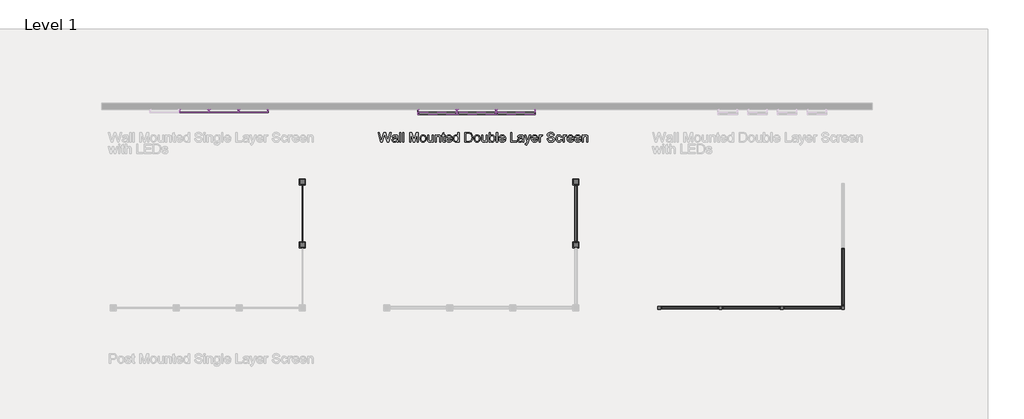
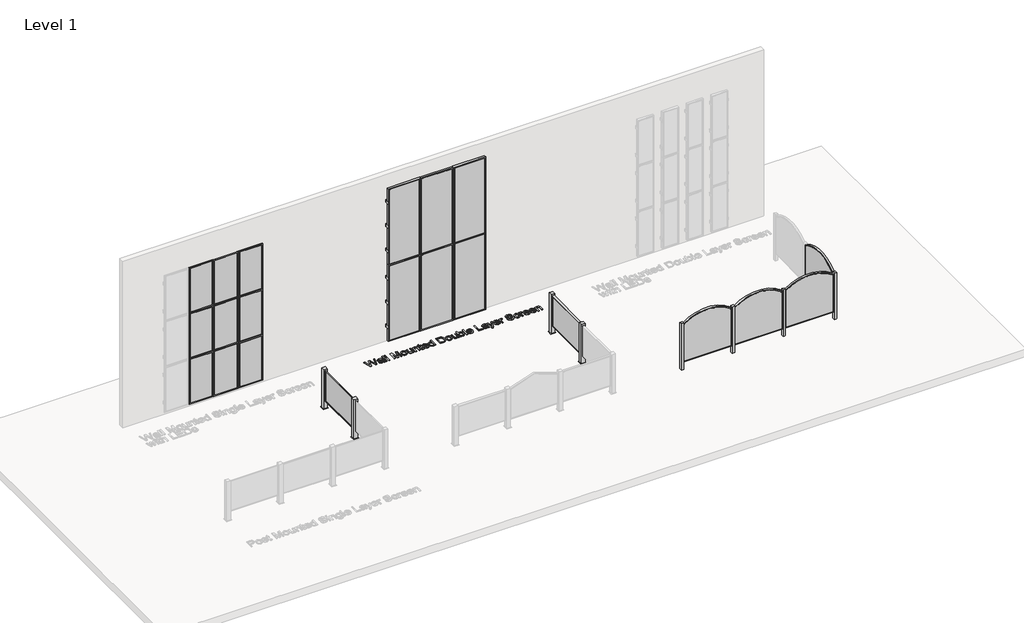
# One storey, part 3 of 4: 22 proxies.
"""IFC4 building model written with IfcOpenShell, lengths in millimetres."""

from ifc_helpers import new_model, si_unit, origin, origin_with_axes, place, context, project, spatial, polyline, outline, extrude, transform, mapped, element, save
from components import post_mounted_f91466e1, proxy_c546ff88, proxy_14816cca, wall_mount_double_layer_4x10_w_led_b86ccbe1, wall_mount_single_layer_3x6_w_led_26e74e4a

model = new_model("IFC4")

# Units and contexts
model_context = context("Model", 3, world=origin())
ifc_project = project(units=[si_unit("LENGTHUNIT", "METRE", prefix="MILLI")], contexts=[model_context])

# Site, building, storey
site = spatial("IfcSite", under=ifc_project)
building = spatial("IfcBuilding", under=site)
storey = spatial("IfcBuildingStorey", under=building, Name="Level 1", Elevation=0.0)

# Proxies
placement = place(None, origin())
element("IfcBuildingElementProxy", 1, Name="12\" Arial", ObjectType="12\" Arial", at=placement, inside=storey, context=model_context, shape_type="SweptSolid", body=[
    extrude(outline(polyline([(-6694.2804069, -5129.4015724), (-6777.3374001, -4824.8344783), (-6738.0767982, -4824.8344783), (-6689.8933321, -5025.0040626), (-6675.021892, -5086.7948964), (-6659.109451, -5032.1423538), (-6598.7314041, -4824.8344783), (-6542.1455743, -4824.8344783), (-6498.2748259, -4975.1103809), (-6479.4810434, -5030.8782814), (-6465.6320148, -5086.7948964), (-6451.2067179, -5026.7886354), (-6402.5771086, -4824.8344783), (-6363.3165066, -4824.8344783), (-6446.447857, -5129.4015724), (-6487.1212458, -5129.4015724), (-6560.1400169, -4894.4328181), (-6570.3269534, -4861.6412926), (-6581.7779623, -4901.1249662), (-6648.3276569, -5129.4015724), (-6694.2804069, -5129.4015724)])), origin_with_axes(), (0.0, 0.0, 1.0), 25.4),
    extrude(outline(polyline([(-6187.2386554, -5100.8484073), (-6205.4282856, -5116.4448301), (-6224.1570055, -5126.6503559), (-6243.8523691, -5132.2829139), (-6264.9419301, -5134.1604332), (-6296.7575174, -5129.6432333), (-6320.2265088, -5116.0916334), (-6334.698279, -5095.5132781), (-6339.5222024, -5069.9158118), (-6337.700451, -5054.1334959), (-6332.2351967, -5039.8011455), (-6323.8049491, -5027.5322074), (-6313.0882176, -5017.9401285), (-6286.4311611, -5005.4481188), (-6253.4909212, -4999.7226143), (-6214.5649266, -4993.6996811), (-6187.461727, -4986.635747), (-6187.2386554, -4978.1590261), (-6189.8597467, -4961.1684058), (-6197.7230207, -4950.0520043), (-6215.3084986, -4941.798355), (-6239.8091963, -4939.0471386), (-6262.4881425, -4940.8781846), (-6278.3262262, -4946.3713228), (-6289.1266096, -4956.5303754), (-6296.6924548, -4972.3591645), (-6334.7633416, -4967.6003036), (-6328.1548454, -4946.7802874), (-6318.2932216, -4930.4217033), (-6304.2583, -4917.9111043), (-6285.1299101, -4908.6350435), (-6261.7352758, -4902.8909497), (-6234.901621, -4900.9762518), (-6209.1647349, -4902.6678781), (-6188.762978, -4907.7427571), (-6173.3803321, -4915.3736648), (-6162.7007791, -4924.7333774), (-6155.6182558, -4936.3052168), (-6151.0266986, -4950.5725047), (-6149.1677686, -4983.8845306), (-6149.1677686, -5031.2500674), (-6147.2344814, -5097.3907975), (-6139.6500469, -5129.4015724), (-6177.7209337, -5129.4015724), (-6183.8182241, -5116.1659906), (-6187.2386554, -5100.8484073)]), holes=[polyline([(-6187.2386554, -5024.7066338), (-6248.6577032, -5036.3807143), (-6281.4120501, -5042.5523619), (-6296.2463116, -5052.590584), (-6301.4513157, -5067.2389526), (-6298.6164474, -5078.5598364), (-6290.1118425, -5087.8358972), (-6276.1233942, -5094.0261341), (-6256.8369952, -5096.0895464), (-6236.388765, -5093.8123572), (-6218.3199653, -5086.9807894), (-6203.6715967, -5076.9146833), (-6193.4846602, -5064.9338793), (-6188.9674603, -5052.590584), (-6187.461727, -5035.4884279), (-6187.2386554, -5024.7066338)])]), origin_with_axes(), (0.0, 0.0, 1.0), 25.4),
    extrude(outline(polyline([(-6096.8202993, -5129.4015724), (-6096.8202993, -4824.8344783), (-6058.7494126, -4824.8344783), (-6058.7494126, -5129.4015724), (-6096.8202993, -5129.4015724)])), origin_with_axes(), (0.0, 0.0, 1.0), 25.4),
    extrude(outline(polyline([(-6001.6430824, -5129.4015724), (-6001.6430824, -4824.8344783), (-5963.5721957, -4824.8344783), (-5963.5721957, -5129.4015724), (-6001.6430824, -5129.4015724)])), origin_with_axes(), (0.0, 0.0, 1.0), 25.4),
    extrude(outline(polyline([(-5782.7354836, -5129.4015724), (-5782.7354836, -4824.8344783), (-5717.2267897, -4824.8344783), (-5654.9154556, -5039.5037167), (-5642.3490886, -5084.3411087), (-5628.7417209, -5035.7858567), (-5567.4713875, -4824.8344783), (-5501.9626937, -4824.8344783), (-5501.9626937, -5129.4015724), (-5540.0335805, -5129.4015724), (-5540.0335805, -4862.905365), (-5616.54714, -5129.4015724), (-5668.1510373, -5129.4015724), (-5744.6645968, -4862.905365), (-5744.6645968, -5129.4015724), (-5782.7354836, -5129.4015724)])), origin_with_axes(), (0.0, 0.0, 1.0), 25.4),
    extrude(outline(polyline([(-5449.6152244, -5017.5683425), (-5447.5564594, -4988.6015655), (-5441.3801645, -4963.6407827), (-5431.0863395, -4942.6859941), (-5416.6749845, -4925.7371996), (-5402.1660357, -4914.904285), (-5386.1513536, -4907.1664888), (-5368.6309382, -4902.523811), (-5349.6047895, -4900.9762518), (-5328.601204, -4902.8607421), (-5309.6099102, -4908.514213), (-5292.6309081, -4917.9366646), (-5277.6641978, -4931.1280967), (-5265.4487039, -4947.6423662), (-5256.7233512, -4967.03333), (-5251.4881395, -4989.3009879), (-5249.7430689, -5014.4453401), (-5252.8288928, -5052.9066021), (-5262.0863643, -5082.1847499), (-5277.2459386, -5104.1108295), (-5298.0380708, -5120.5158869), (-5322.7339561, -5130.7492966), (-5349.6047895, -5134.1604332), (-5370.9150985, -5132.2829139), (-5390.0829906, -5126.6503559), (-5407.1084659, -5117.2627593), (-5421.9915244, -5104.1201241), (-5434.0768931, -5087.4455219), (-5442.7092994, -5067.4620242), (-5447.8887432, -5044.1696311), (-5449.6152244, -5017.5683425)]), holes=[polyline([(-5411.5443377, -5017.4939853), (-5407.1386735, -5051.9492532), (-5393.9216811, -5076.4964241), (-5374.0311299, -5091.1912658), (-5349.6047895, -5096.0895464), (-5325.2899849, -5091.1633819), (-5305.4366123, -5076.3848883), (-5292.2196198, -5051.5124046), (-5287.8139557, -5016.3042701), (-5292.2475038, -4982.8528244), (-5305.5481481, -4958.6402609), (-5325.4294046, -4943.9454192), (-5349.6047895, -4939.0471386), (-5374.0311299, -4943.9268299), (-5393.9216811, -4958.5659037), (-5407.1386735, -4983.0573067), (-5411.5443377, -5017.4939853)])]), origin_with_axes(), (0.0, 0.0, 1.0), 25.4),
    extrude(outline(polyline([(-5064.147496, -5129.4015724), (-5064.147496, -5090.9588996), (-5077.9221674, -5109.8595705), (-5093.9647335, -5123.3600498), (-5112.2751942, -5131.4603374), (-5132.8535494, -5134.1604332), (-5151.3963764, -5132.2643246), (-5168.6565416, -5126.5759987), (-5183.1376064, -5118.0249206), (-5193.3431322, -5107.5405553), (-5200.2118786, -5094.8068847), (-5204.6826053, -5079.5078907), (-5206.9133213, -5044.1138632), (-5206.9133213, -4905.7351126), (-5168.8424346, -4905.7351126), (-5168.8424346, -5026.1937778), (-5166.5373614, -5065.0082365), (-5160.9884553, -5077.9556841), (-5151.4800282, -5087.7987186), (-5138.6441164, -5094.0168395), (-5123.1127562, -5096.0895464), (-5106.6891094, -5093.9703662), (-5091.3250529, -5087.6128256), (-5078.6564448, -5077.6024874), (-5070.3191437, -5064.5249147), (-5065.6904079, -5046.614124), (-5064.147496, -5022.1041317), (-5064.147496, -4905.7351126), (-5026.0766092, -4905.7351126), (-5026.0766092, -5129.4015724), (-5064.147496, -5129.4015724)])), origin_with_axes(), (0.0, 0.0, 1.0), 25.4),
    extrude(outline(polyline([(-4973.7291399, -5129.4015724), (-4973.7291399, -4905.7351126), (-4935.6582532, -4905.7351126), (-4935.6582532, -4936.9651369), (-4922.4319661, -4921.2199997), (-4906.5474091, -4909.9734731), (-4888.0045822, -4903.2255571), (-4866.8034853, -4900.9762518), (-4848.0375868, -4902.7887086), (-4830.8517788, -4908.2260789), (-4816.5194284, -4916.6098533), (-4806.3139026, -4927.2615223), (-4794.9000723, -4955.2570083), (-4792.8924278, -4992.0638227), (-4792.8924278, -5129.4015724), (-4830.9633146, -5129.4015724), (-4830.9633146, -4997.1944695), (-4835.3503894, -4963.5106576), (-4841.419796, -4953.4817301), (-4850.8538658, -4945.702108), (-4862.9462056, -4940.7108809), (-4876.9904218, -4939.0471386), (-4899.2882874, -4942.7835879), (-4918.2958468, -4953.9929359), (-4925.8918996, -4963.1435189), (-4931.3176516, -4975.6494706), (-4935.6582532, -5010.72748), (-4935.6582532, -5129.4015724), (-4973.7291399, -5129.4015724)])), origin_with_axes(), (0.0, 0.0, 1.0), 25.4),
    extrude(outline(polyline([(-4659.6443242, -5097.6510477), (-4654.8854633, -5130.5169304), (-4683.3642712, -5134.1604332), (-4701.6375533, -5132.5803427), (-4715.2635103, -5127.8400711), (-4724.8927678, -5120.5344762), (-4731.1759513, -5111.2584154), (-4734.6335611, -5095.3273851), (-4735.7860977, -5068.0568818), (-4735.7860977, -4943.8059994), (-4764.3392628, -4943.8059994), (-4764.3392628, -4905.7351126), (-4735.7860977, -4905.7351126), (-4735.7860977, -4851.3799989), (-4697.7152109, -4828.9984815), (-4697.7152109, -4905.7351126), (-4659.6443242, -4905.7351126), (-4659.6443242, -4943.8059994), (-4697.7152109, -4943.8059994), (-4697.7152109, -5066.9415238), (-4695.7075665, -5086.5718248), (-4689.2013115, -5093.524223), (-4676.2259799, -5096.0895464), (-4659.6443242, -5097.6510477)])), origin_with_axes(), (0.0, 0.0, 1.0), 25.4),
    extrude(outline(polyline([(-4464.9771728, -5062.7775205), (-4427.649858, -5067.5363814), (-4441.0992167, -5095.6619925), (-4462.5605637, -5116.686491), (-4491.5505774, -5129.7919477), (-4527.5859357, -5134.1604332), (-4551.2082889, -5132.2759429), (-4572.2560241, -5126.622472), (-4590.7291411, -5117.2000205), (-4606.6276401, -5104.0085883), (-4619.4124313, -5087.4153142), (-4628.544425, -5067.7873369), (-4634.0236212, -5045.1246563), (-4635.85002, -5019.4272725), (-4634.0050319, -4992.8585152), (-4628.4700678, -4969.4406443), (-4619.2451276, -4949.1736598), (-4606.3302113, -4932.0575617), (-4590.4735382, -4918.4594886), (-4572.4233278, -4908.7465793), (-4552.1795799, -4902.9188337), (-4529.7422946, -4900.9762518), (-4508.0276683, -4902.9141863), (-4488.3903963, -4908.72799), (-4470.8304786, -4918.4176627), (-4455.3479153, -4931.9832045), (-4442.7095148, -4949.062124), (-4433.6820859, -4969.2919299), (-4428.2656286, -4992.6726222), (-4426.4601428, -5019.2042009), (-4426.6832144, -5029.4654946), (-4597.7791332, -5029.4654946), (-4591.1892263, -5057.9628918), (-4575.8809376, -5078.9130331), (-4553.7875543, -5091.7954181), (-4526.8423637, -5096.0895464), (-4506.5800265, -5094.1004913), (-4489.515049, -5088.133326), (-4475.6474311, -5077.8162644), (-4464.9771728, -5062.7775205)]), holes=[polyline([(-4597.7791332, -4991.3946079), (-4464.5310296, -4991.3946079), (-4469.6802657, -4971.2809851), (-4479.7742557, -4956.8928667), (-4501.9698801, -4943.5085706), (-4529.891009, -4939.0471386), (-4555.5535379, -4942.6069895), (-4576.773224, -4953.2865425), (-4591.5238337, -4969.9332608), (-4597.7791332, -4991.3946079)])]), origin_with_axes(), (0.0, 0.0, 1.0), 25.4),
    extrude(outline(polyline([(-4250.3822915, -5129.4015724), (-4250.3822915, -5093.4870444), (-4261.7728852, -5111.281652), (-4275.5707933, -5123.992086), (-4291.7760157, -5131.6183464), (-4310.3885525, -5134.1604332), (-4335.0007859, -5130.4797518), (-4357.5310177, -5119.4377075), (-4376.6036397, -5101.8057562), (-4390.8430437, -5078.3553541), (-4399.7101398, -5050.0345553), (-4402.6658386, -5017.7914141), (-4399.9425061, -4985.9479429), (-4391.7725087, -4957.1902955), (-4378.1651409, -4933.1543304), (-4359.1296976, -4915.4759059), (-4336.1068493, -4904.6011653), (-4310.5372669, -4900.9762518), (-4291.9107881, -4903.5694592), (-4275.4406682, -4911.3490813), (-4261.4801037, -4923.2741174), (-4250.3822915, -4938.3035666), (-4250.3822915, -4824.8344783), (-4212.3114048, -4824.8344783), (-4212.3114048, -5129.4015724), (-4250.3822915, -5129.4015724)]), holes=[polyline([(-4364.5949518, -5017.6426997), (-4360.3008235, -5052.0793783), (-4347.4184384, -5076.5707813), (-4328.6990132, -5091.2098551), (-4306.8937641, -5096.0895464), (-4285.0978096, -5091.4329267), (-4266.8524115, -5077.4630677), (-4254.4998215, -5053.919719), (-4250.3822915, -5020.5426305), (-4254.5741787, -4984.0518343), (-4267.1498403, -4958.7517967), (-4285.8599709, -4943.9733031), (-4308.4552653, -4939.0471386), (-4330.483586, -4943.7781155), (-4348.5337965, -4957.9710461), (-4360.579663, -4982.3509133), (-4364.5949518, -5017.6426997)])]), origin_with_axes(), (0.0, 0.0, 1.0), 25.4),
    extrude(outline(polyline([(-4031.4746927, -5129.4015724), (-4031.4746927, -4824.8344783), (-3926.4079681, -4824.8344783), (-3872.0528544, -4829.2215531), (-3847.7752283, -4837.6796847), (-3827.2898195, -4851.0082129), (-3806.2281425, -4874.2076596), (-3791.2265772, -4903.0582534), (-3782.2479452, -4937.0023155), (-3779.2550679, -4975.4821669), (-3781.2813016, -5008.1714513), (-3787.3600028, -5036.9383933), (-3796.6174743, -5061.4297963), (-3808.180019, -5081.2924635), (-3821.4899579, -5096.9725382), (-3835.989612, -5108.9161636), (-3852.6363303, -5117.7739651), (-3872.3874618, -5124.1965683), (-3921.3516784, -5129.4015724), (-4031.4746927, -5129.4015724)]), holes=[polyline([(-3993.4038059, -5091.3306856), (-3926.0361821, -5091.3306856), (-3898.1708211, -5089.9550774), (-3877.0347868, -5085.8282527), (-3861.0851673, -5079.1918726), (-3848.7790506, -5070.2875978), (-3835.5527635, -5053.8081832), (-3825.6167825, -5032.4769612), (-3819.3986616, -5006.2009854), (-3817.3259547, -4974.8873093), (-3821.3877167, -4933.3959913), (-3833.573003, -4902.7608246), (-3851.5767402, -4881.7177368), (-3873.0938552, -4869.0026555), (-3894.9920508, -4864.4296877), (-3927.0771829, -4862.905365), (-3993.4038059, -4862.905365), (-3993.4038059, -5091.3306856)])]), origin_with_axes(), (0.0, 0.0, 1.0), 25.4),
    extrude(outline(polyline([(-3741.1841811, -5017.5683425), (-3739.1254161, -4988.6015655), (-3732.9491212, -4963.6407827), (-3722.6552962, -4942.6859941), (-3708.2439412, -4925.7371996), (-3693.7349924, -4914.904285), (-3677.7203103, -4907.1664888), (-3660.1998949, -4902.523811), (-3641.1737462, -4900.9762518), (-3620.1701607, -4902.8607421), (-3601.1788669, -4908.514213), (-3584.1998648, -4917.9366646), (-3569.2331545, -4931.1280967), (-3557.0176606, -4947.6423662), (-3548.2923079, -4967.03333), (-3543.0570962, -4989.3009879), (-3541.3120257, -5014.4453401), (-3544.3978495, -5052.9066021), (-3553.655321, -5082.1847499), (-3568.8148953, -5104.1108295), (-3589.6070275, -5120.5158869), (-3614.3029128, -5130.7492966), (-3641.1737462, -5134.1604332), (-3662.4840552, -5132.2829139), (-3681.6519473, -5126.6503559), (-3698.6774226, -5117.2627593), (-3713.5604811, -5104.1201241), (-3725.6458499, -5087.4455219), (-3734.2782561, -5067.4620242), (-3739.4576999, -5044.1696311), (-3741.1841811, -5017.5683425)]), holes=[polyline([(-3703.1132944, -5017.4939853), (-3698.7076302, -5051.9492532), (-3685.4906378, -5076.4964241), (-3665.6000866, -5091.1912658), (-3641.1737462, -5096.0895464), (-3616.8589416, -5091.1633819), (-3597.005569, -5076.3848883), (-3583.7885766, -5051.5124046), (-3579.3829124, -5016.3042701), (-3583.8164605, -4982.8528244), (-3597.1171048, -4958.6402609), (-3616.9983613, -4943.9454192), (-3641.1737462, -4939.0471386), (-3665.6000866, -4943.9268299), (-3685.4906378, -4958.5659037), (-3698.7076302, -4983.0573067), (-3703.1132944, -5017.4939853)])]), origin_with_axes(), (0.0, 0.0, 1.0), 25.4),
    extrude(outline(polyline([(-3355.7164527, -5129.4015724), (-3355.7164527, -5090.9588996), (-3369.4911241, -5109.8595705), (-3385.5336902, -5123.3600498), (-3403.8441509, -5131.4603374), (-3424.4225062, -5134.1604332), (-3442.9653331, -5132.2643246), (-3460.2254983, -5126.5759987), (-3474.7065631, -5118.0249206), (-3484.9120889, -5107.5405553), (-3491.7808353, -5094.8068847), (-3496.251562, -5079.5078907), (-3498.4822781, -5044.1138632), (-3498.4822781, -4905.7351126), (-3460.4113913, -4905.7351126), (-3460.4113913, -5026.1937778), (-3458.1063181, -5065.0082365), (-3452.557412, -5077.9556841), (-3443.0489849, -5087.7987186), (-3430.2130732, -5094.0168395), (-3414.6817129, -5096.0895464), (-3398.2580662, -5093.9703662), (-3382.8940096, -5087.6128256), (-3370.2254015, -5077.6024874), (-3361.8881004, -5064.5249147), (-3357.2593646, -5046.614124), (-3355.7164527, -5022.1041317), (-3355.7164527, -4905.7351126), (-3317.6455659, -4905.7351126), (-3317.6455659, -5129.4015724), (-3355.7164527, -5129.4015724)])), origin_with_axes(), (0.0, 0.0, 1.0), 25.4),
    extrude(outline(polyline([(-3227.2272099, -5129.4015724), (-3265.2980967, -5129.4015724), (-3265.2980967, -4824.8344783), (-3227.2272099, -4824.8344783), (-3227.2272099, -4937.7830662), (-3214.7073162, -4921.6800849), (-3200.5701534, -4910.1779554), (-3184.8157215, -4903.2766777), (-3167.4440205, -4900.9762518), (-3147.8323089, -4903.0489588), (-3129.2987766, -4909.2670797), (-3112.9030138, -4919.2402392), (-3099.7046107, -4932.5780621), (-3089.3596651, -4949.1504232), (-3081.5242751, -4968.8271974), (-3076.5888159, -4990.7904556), (-3074.9436629, -5014.2222685), (-3076.6469075, -5041.2604056), (-3081.7566414, -5065.0454151), (-3090.2728645, -5085.5772972), (-3102.1955769, -5102.8560517), (-3116.5070144, -5116.5517186), (-3132.1894128, -5126.3343378), (-3149.242772, -5132.2039094), (-3167.6670921, -5134.1604332), (-3185.6104141, -5131.6369357), (-3201.5182078, -5124.0664432), (-3215.390473, -5111.4489557), (-3227.2272099, -5093.7844732), (-3227.2272099, -5129.4015724)]), holes=[polyline([(-3227.2272099, -5016.0068413), (-3224.6247079, -5047.757366), (-3216.8172018, -5069.246597), (-3207.5922616, -5080.9903874), (-3196.8708827, -5089.3788091), (-3184.6530652, -5094.4118621), (-3170.938809, -5096.0895464), (-3148.9662562, -5091.1447926), (-3130.191063, -5076.3105311), (-3117.308678, -5051.6797083), (-3113.0145496, -5017.3452709), (-3117.1320796, -4982.5089224), (-3129.4846696, -4958.1569391), (-3147.6742998, -4943.8245887), (-3169.3029506, -4939.0471386), (-3191.2755034, -4943.9918924), (-3210.0506965, -4958.8261539), (-3222.9330816, -4983.0108335), (-3227.2272099, -5016.0068413)])]), origin_with_axes(), (0.0, 0.0, 1.0), 25.4),
    extrude(outline(polyline([(-3032.1139153, -5129.4015724), (-3032.1139153, -4824.8344783), (-2994.0430285, -4824.8344783), (-2994.0430285, -5129.4015724), (-3032.1139153, -5129.4015724)])), origin_with_axes(), (0.0, 0.0, 1.0), 25.4),
    extrude(outline(polyline([(-2780.3404337, -5062.7775205), (-2743.0131189, -5067.5363814), (-2756.4624776, -5095.6619925), (-2777.9238247, -5116.686491), (-2806.9138383, -5129.7919477), (-2842.9491967, -5134.1604332), (-2866.5715499, -5132.2759429), (-2887.619285, -5126.622472), (-2906.092402, -5117.2000205), (-2921.990901, -5104.0085883), (-2934.7756922, -5087.4153142), (-2943.9076859, -5067.7873369), (-2949.3868822, -5045.1246563), (-2951.2132809, -5019.4272725), (-2949.3682929, -4992.8585152), (-2943.8333287, -4969.4406443), (-2934.6083885, -4949.1736598), (-2921.6934722, -4932.0575617), (-2905.8367992, -4918.4594886), (-2887.7865887, -4908.7465793), (-2867.5428408, -4902.9188337), (-2845.1055555, -4900.9762518), (-2823.3909292, -4902.9141863), (-2803.7536573, -4908.72799), (-2786.1937396, -4918.4176627), (-2770.7111762, -4931.9832045), (-2758.0727757, -4949.062124), (-2749.0453468, -4969.2919299), (-2743.6288895, -4992.6726222), (-2741.8234037, -5019.2042009), (-2742.0464753, -5029.4654946), (-2913.1423941, -5029.4654946), (-2906.5524872, -5057.9628918), (-2891.2441985, -5078.9130331), (-2869.1508153, -5091.7954181), (-2842.2056247, -5096.0895464), (-2821.9432875, -5094.1004913), (-2804.8783099, -5088.133326), (-2791.010692, -5077.8162644), (-2780.3404337, -5062.7775205)]), holes=[polyline([(-2913.1423941, -4991.3946079), (-2779.8942905, -4991.3946079), (-2785.0435266, -4971.2809851), (-2795.1375166, -4956.8928667), (-2817.333141, -4943.5085706), (-2845.2542699, -4939.0471386), (-2870.9167988, -4942.6069895), (-2892.1364849, -4953.2865425), (-2906.8870946, -4969.9332608), (-2913.1423941, -4991.3946079)])]), origin_with_axes(), (0.0, 0.0, 1.0), 25.4),
    extrude(outline(polyline([(-2580.022135, -5129.4015724), (-2580.022135, -4824.8344783), (-2541.9512482, -4824.8344783), (-2541.9512482, -5091.3306856), (-2389.6677012, -5091.3306856), (-2389.6677012, -5129.4015724), (-2580.022135, -5129.4015724)])), origin_with_axes(), (0.0, 0.0, 1.0), 25.4),
    extrude(outline(polyline([(-2208.8309891, -5100.8484073), (-2227.0206193, -5116.4448301), (-2245.7493393, -5126.6503559), (-2265.4447028, -5132.2829139), (-2286.5342638, -5134.1604332), (-2318.3498511, -5129.6432333), (-2341.8188426, -5116.0916334), (-2356.2906127, -5095.5132781), (-2361.1145361, -5069.9158118), (-2359.2927847, -5054.1334959), (-2353.8275305, -5039.8011455), (-2345.3972828, -5027.5322074), (-2334.6805513, -5017.9401285), (-2308.0234948, -5005.4481188), (-2275.0832549, -4999.7226143), (-2236.1572604, -4993.6996811), (-2209.0540607, -4986.635747), (-2208.8309891, -4978.1590261), (-2211.4520804, -4961.1684058), (-2219.3153544, -4950.0520043), (-2236.9008324, -4941.798355), (-2261.40153, -4939.0471386), (-2284.0804762, -4940.8781846), (-2299.91856, -4946.3713228), (-2310.7189434, -4956.5303754), (-2318.2847885, -4972.3591645), (-2356.3556753, -4967.6003036), (-2349.7471791, -4946.7802874), (-2339.8855553, -4930.4217033), (-2325.8506337, -4917.9111043), (-2306.7222438, -4908.6350435), (-2283.3276096, -4902.8909497), (-2256.4939548, -4900.9762518), (-2230.7570687, -4902.6678781), (-2210.3553117, -4907.7427571), (-2194.9726658, -4915.3736648), (-2184.2931129, -4924.7333774), (-2177.2105895, -4936.3052168), (-2172.6190324, -4950.5725047), (-2170.7601023, -4983.8845306), (-2170.7601023, -5031.2500674), (-2168.8268151, -5097.3907975), (-2161.2423807, -5129.4015724), (-2199.3132674, -5129.4015724), (-2205.4105579, -5116.1659906), (-2208.8309891, -5100.8484073)]), holes=[polyline([(-2208.8309891, -5024.7066338), (-2270.2500369, -5036.3807143), (-2303.0043838, -5042.5523619), (-2317.8386453, -5052.590584), (-2323.0436494, -5067.2389526), (-2320.2087811, -5078.5598364), (-2311.7041763, -5087.8358972), (-2297.7157279, -5094.0261341), (-2278.429329, -5096.0895464), (-2257.9810988, -5093.8123572), (-2239.912299, -5086.9807894), (-2225.2639305, -5076.9146833), (-2215.076994, -5064.9338793), (-2210.559794, -5052.590584), (-2209.0540607, -5035.4884279), (-2208.8309891, -5024.7066338)])]), origin_with_axes(), (0.0, 0.0, 1.0), 25.4),
    extrude(outline(polyline([(-2118.4126331, -5215.0610676), (-2123.1714939, -5178.4029676), (-2103.8386217, -5181.7490416), (-2085.7698219, -5177.5478598), (-2074.690599, -5165.8366007), (-2064.2805909, -5137.803936), (-2061.3063029, -5128.5836431), (-2142.2069373, -4905.7351126), (-2102.0540489, -4905.7351126), (-2059.1499441, -5029.9116378), (-2044.2041468, -5079.5822479), (-2029.2583494, -5035.7114995), (-1985.1645294, -4905.7351126), (-1945.3090698, -4905.7351126), (-2023.161059, -5134.7552908), (-2043.3862175, -5184.4259009), (-2053.7404577, -5200.2825739), (-2065.4703062, -5211.2688503), (-2079.0962632, -5217.6821589), (-2095.1388292, -5219.8199284), (-2118.4126331, -5215.0610676)])), origin_with_axes(), (0.0, 0.0, 1.0), 25.4),
    extrude(outline(polyline([(-1757.1853521, -5062.7775205), (-1719.8580373, -5067.5363814), (-1733.307396, -5095.6619925), (-1754.768743, -5116.686491), (-1783.7587567, -5129.7919477), (-1819.794115, -5134.1604332), (-1843.4164682, -5132.2759429), (-1864.4642034, -5126.622472), (-1882.9373204, -5117.2000205), (-1898.8358194, -5104.0085883), (-1911.6206106, -5087.4153142), (-1920.7526043, -5067.7873369), (-1926.2318005, -5045.1246563), (-1928.0581993, -5019.4272725), (-1926.2132112, -4992.8585152), (-1920.6782471, -4969.4406443), (-1911.4533069, -4949.1736598), (-1898.5383906, -4932.0575617), (-1882.6817175, -4918.4594886), (-1864.6315071, -4908.7465793), (-1844.3877592, -4902.9188337), (-1821.9504739, -4900.9762518), (-1800.2358476, -4902.9141863), (-1780.5985756, -4908.72799), (-1763.0386579, -4918.4176627), (-1747.5560946, -4931.9832045), (-1734.9176941, -4949.062124), (-1725.8902652, -4969.2919299), (-1720.4738079, -4992.6726222), (-1718.6683221, -5019.2042009), (-1718.8913937, -5029.4654946), (-1889.9873125, -5029.4654946), (-1883.3974056, -5057.9628918), (-1868.0891169, -5078.9130331), (-1845.9957336, -5091.7954181), (-1819.050543, -5096.0895464), (-1798.7882058, -5094.1004913), (-1781.7232283, -5088.133326), (-1767.8556104, -5077.8162644), (-1757.1853521, -5062.7775205)]), holes=[polyline([(-1889.9873125, -4991.3946079), (-1756.7392088, -4991.3946079), (-1761.888445, -4971.2809851), (-1771.982435, -4956.8928667), (-1794.1780594, -4943.5085706), (-1822.0991883, -4939.0471386), (-1847.7617172, -4942.6069895), (-1868.9814033, -4953.2865425), (-1883.732013, -4969.9332608), (-1889.9873125, -4991.3946079)])]), origin_with_axes(), (0.0, 0.0, 1.0), 25.4),
    extrude(outline(polyline([(-1680.5974353, -5129.4015724), (-1680.5974353, -4905.7351126), (-1647.2854094, -4905.7351126), (-1647.2854094, -4938.824067), (-1634.9792927, -4919.6399092), (-1623.6398196, -4908.3376147), (-1612.2631679, -4902.8165925), (-1599.8455154, -4900.9762518), (-1580.8844292, -4903.9133612), (-1561.6259142, -4912.7246895), (-1574.3409955, -4946.8546446), (-1587.7252917, -4940.9990151), (-1601.1095878, -4939.0471386), (-1612.4769448, -4940.9246579), (-1622.6359974, -4946.5572158), (-1630.8431734, -4955.5172585), (-1636.3549009, -4967.377232), (-1640.9836367, -4988.6433914), (-1642.5265486, -5011.842838), (-1642.5265486, -5129.4015724), (-1680.5974353, -5129.4015724)])), origin_with_axes(), (0.0, 0.0, 1.0), 25.4),
    extrude(outline(polyline([(-1428.3778106, -5024.7066338), (-1390.3069238, -5024.7066338), (-1385.9384383, -5045.8333734), (-1378.0379857, -5062.8146991), (-1365.7132797, -5076.2919418), (-1348.0720338, -5086.9064322), (-1326.5084456, -5093.7937679), (-1302.4167126, -5096.0895464), (-1281.2063211, -5094.3514469), (-1262.6356102, -5089.1371482), (-1247.5875717, -5080.8834989), (-1236.9451974, -5070.0273476), (-1230.6155406, -5057.5632218), (-1228.5056551, -5044.4856492), (-1230.0857456, -5031.7426839), (-1234.8260171, -5020.7285235), (-1244.4552746, -5011.3316323), (-1260.702323, -5003.4404744), (-1316.1356161, -4988.9036416), (-1352.5241712, -4979.2836788), (-1375.8072697, -4970.1284485), (-1394.7590612, -4957.3204206), (-1408.1898306, -4941.798355), (-1416.1925243, -4923.8968589), (-1418.8600889, -4903.9505398), (-1415.5604881, -4881.6526743), (-1405.6616857, -4860.860542), (-1389.423932, -4843.2378855), (-1367.1074772, -4830.4484469), (-1340.3202956, -4822.6688248), (-1310.6703618, -4820.0756174), (-1278.5480511, -4822.7896553), (-1250.4410293, -4830.9317687), (-1227.3531185, -4844.3346542), (-1210.2881409, -4862.8310078), (-1199.4877575, -4885.2682932), (-1195.1936292, -4910.4939735), (-1233.2645159, -4910.4939735), (-1240.2540928, -4887.7778487), (-1254.8281041, -4871.3820859), (-1277.5999968, -4861.4553996), (-1309.1832178, -4858.1465042), (-1341.5100108, -4861.418221), (-1363.6870459, -4871.2333715), (-1376.5136631, -4885.6772578), (-1380.7892021, -4902.8351818), (-1377.7591462, -4917.4649611), (-1368.6689784, -4929.2319881), (-1347.1797474, -4939.753532), (-1306.5063586, -4950.4981475), (-1264.5317188, -4960.7036733), (-1239.1387348, -4969.6079481), (-1217.4357268, -4983.4197981), (-1202.2947418, -5000.4661863), (-1193.3997617, -5020.5612198), (-1190.4347683, -5043.5190055), (-1193.8459049, -5066.987997), (-1204.0793146, -5089.062791), (-1220.7167383, -5108.0610558), (-1243.3399166, -5122.3004597), (-1270.5453574, -5131.1954398), (-1300.9295686, -5134.1604332), (-1338.2289994, -5130.9630736), (-1368.9292286, -5121.3709947), (-1393.383453, -5105.3470179), (-1411.9448692, -5082.8539647), (-1423.8606106, -5055.4533363), (-1428.3778106, -5024.7066338)])), origin_with_axes(), (0.0, 0.0, 1.0), 25.4),
    extrude(outline(polyline([(-995.3214737, -5048.500938), (-957.2505869, -5053.2597988), (-967.8650773, -5087.1202091), (-987.8113964, -5112.7083808), (-1015.2120249, -5128.7974201), (-1048.1894434, -5134.1604332), (-1069.5415783, -5132.2898849), (-1088.6862338, -5126.6782399), (-1105.6234099, -5117.3254982), (-1120.3531067, -5104.2316599), (-1132.2758191, -5087.6430332), (-1140.7920422, -5067.8059262), (-1145.9017761, -5044.7203391), (-1147.6050207, -5018.3862717), (-1144.6957952, -4984.5072721), (-1135.9681188, -4955.1454725), (-1121.2825717, -4931.4348201), (-1100.4997341, -4914.5092623), (-1075.6365451, -4904.3595044), (-1048.7099438, -4900.9762518), (-1016.5411598, -4905.6235768), (-990.822863, -4919.565552), (-972.3729826, -4942.0586052), (-962.0094478, -4972.3591645), (-1000.0803345, -4977.1180253), (-1006.9862595, -4960.5084856), (-1017.7401697, -4948.6020389), (-1031.7472074, -4941.4358636), (-1048.412515, -4939.0471386), (-1073.0154538, -4943.7502315), (-1092.5435136, -4957.8595103), (-1105.2864789, -4982.1371364), (-1109.534134, -5017.3452709), (-1105.3794254, -5053.0274326), (-1092.9152996, -5077.3887105), (-1073.7404365, -5091.4143374), (-1049.4535158, -5096.0895464), (-1029.739563, -5093.1710263), (-1013.5761665, -5084.4154659), (-1001.8184341, -5069.5997937), (-995.3214737, -5048.500938)])), origin_with_axes(), (0.0, 0.0, 1.0), 25.4),
    extrude(outline(polyline([(-923.938561, -5129.4015724), (-923.938561, -4905.7351126), (-890.6265351, -4905.7351126), (-890.6265351, -4938.824067), (-878.3204184, -4919.6399092), (-866.9809453, -4908.3376147), (-855.6042936, -4902.8165925), (-843.186641, -4900.9762518), (-824.2255549, -4903.9133612), (-804.9670399, -4912.7246895), (-817.6821212, -4946.8546446), (-831.0664173, -4940.9990151), (-844.4507135, -4939.0471386), (-855.8180705, -4940.9246579), (-865.9771231, -4946.5572158), (-874.1842991, -4955.5172585), (-879.6960266, -4967.377232), (-884.3247623, -4988.6433914), (-885.8676742, -5011.842838), (-885.8676742, -5129.4015724), (-923.938561, -5129.4015724)])), origin_with_axes(), (0.0, 0.0, 1.0), 25.4),
    extrude(outline(polyline([(-624.576471, -5062.7775205), (-587.2491562, -5067.5363814), (-600.6985149, -5095.6619925), (-622.159862, -5116.686491), (-651.1498756, -5129.7919477), (-687.185234, -5134.1604332), (-710.8075872, -5132.2759429), (-731.8553223, -5126.622472), (-750.3284393, -5117.2000205), (-766.2269383, -5104.0085883), (-779.0117295, -5087.4153142), (-788.1437232, -5067.7873369), (-793.6229195, -5045.1246563), (-795.4493182, -5019.4272725), (-793.6043302, -4992.8585152), (-788.069366, -4969.4406443), (-778.8444258, -4949.1736598), (-765.9295095, -4932.0575617), (-750.0728365, -4918.4594886), (-732.022626, -4908.7465793), (-711.7788781, -4902.9188337), (-689.3415928, -4900.9762518), (-667.6269665, -4902.9141863), (-647.9896946, -4908.72799), (-630.4297769, -4918.4176627), (-614.9472135, -4931.9832045), (-602.308813, -4949.062124), (-593.2813841, -4969.2919299), (-587.8649268, -4992.6726222), (-586.059441, -5019.2042009), (-586.2825126, -5029.4654946), (-757.3784314, -5029.4654946), (-750.7885245, -5057.9628918), (-735.4802358, -5078.9130331), (-713.3868526, -5091.7954181), (-686.441662, -5096.0895464), (-666.1793248, -5094.1004913), (-649.1143472, -5088.133326), (-635.2467293, -5077.8162644), (-624.576471, -5062.7775205)]), holes=[polyline([(-757.3784314, -4991.3946079), (-624.1303278, -4991.3946079), (-629.2795639, -4971.2809851), (-639.3735539, -4956.8928667), (-661.5691783, -4943.5085706), (-689.4903072, -4939.0471386), (-715.1528361, -4942.6069895), (-736.3725222, -4953.2865425), (-751.1231319, -4969.9332608), (-757.3784314, -4991.3946079)])]), origin_with_axes(), (0.0, 0.0, 1.0), 25.4),
    extrude(outline(polyline([(-391.3922896, -5062.7775205), (-354.0649748, -5067.5363814), (-367.5143335, -5095.6619925), (-388.9756806, -5116.686491), (-417.9656942, -5129.7919477), (-454.0010526, -5134.1604332), (-477.6234058, -5132.2759429), (-498.6711409, -5126.622472), (-517.144258, -5117.2000205), (-533.0427569, -5104.0085883), (-545.8275481, -5087.4153142), (-554.9595418, -5067.7873369), (-560.4387381, -5045.1246563), (-562.2651368, -5019.4272725), (-560.4201488, -4992.8585152), (-554.8851846, -4969.4406443), (-545.6602444, -4949.1736598), (-532.7453281, -4932.0575617), (-516.8886551, -4918.4594886), (-498.8384446, -4908.7465793), (-478.5946967, -4902.9188337), (-456.1574114, -4900.9762518), (-434.4427851, -4902.9141863), (-414.8055132, -4908.72799), (-397.2455955, -4918.4176627), (-381.7630321, -4931.9832045), (-369.1246316, -4949.062124), (-360.0972027, -4969.2919299), (-354.6807454, -4992.6726222), (-352.8752596, -5019.2042009), (-353.0983312, -5029.4654946), (-524.19425, -5029.4654946), (-517.6043431, -5057.9628918), (-502.2960544, -5078.9130331), (-480.2026712, -5091.7954181), (-453.2574806, -5096.0895464), (-432.9951434, -5094.1004913), (-415.9301658, -5088.133326), (-402.0625479, -5077.8162644), (-391.3922896, -5062.7775205)]), holes=[polyline([(-524.19425, -4991.3946079), (-390.9461464, -4991.3946079), (-396.0953825, -4971.2809851), (-406.1893725, -4956.8928667), (-428.3849969, -4943.5085706), (-456.3061258, -4939.0471386), (-481.9686547, -4942.6069895), (-503.1883408, -4953.2865425), (-517.9389505, -4969.9332608), (-524.19425, -4991.3946079)])]), origin_with_axes(), (0.0, 0.0, 1.0), 25.4),
    extrude(outline(polyline([(-314.8043729, -5129.4015724), (-314.8043729, -4905.7351126), (-276.7334861, -4905.7351126), (-276.7334861, -4936.9651369), (-263.507199, -4921.2199997), (-247.622642, -4909.9734731), (-229.0798151, -4903.2255571), (-207.8787183, -4900.9762518), (-189.1128197, -4902.7887086), (-171.9270117, -4908.2260789), (-157.5946613, -4916.6098533), (-147.3891355, -4927.2615223), (-135.9753052, -4955.2570083), (-133.9676608, -4992.0638227), (-133.9676608, -5129.4015724), (-172.0385475, -5129.4015724), (-172.0385475, -4997.1944695), (-176.4256224, -4963.5106576), (-182.4950289, -4953.4817301), (-191.9290987, -4945.702108), (-204.0214385, -4940.7108809), (-218.0656548, -4939.0471386), (-240.3635203, -4942.7835879), (-259.3710797, -4953.9929359), (-266.9671325, -4963.1435189), (-272.3928845, -4975.6494706), (-276.7334861, -5010.72748), (-276.7334861, -5129.4015724), (-314.8043729, -5129.4015724)])), origin_with_axes(), (0.0, 0.0, 1.0), 25.4),
])
post_mounted_shape = post_mounted_f91466e1(model_context)
element("IfcBuildingElementProxy", 2, Name="Post Mounted : Arch Top Double Layer 5x6 w/ LED on 4\" Direct Burried Post", ObjectType="Post Mounted : Arch Top Double Layer 5x6 w/ LED on 4\" Direct Burried Post", at=placement, inside=storey, context=model_context, shape_type="MappedRepresentation", body=[
    mapped(post_mounted_shape, transform((3044.8181103, -10379.2357773, 0.0), x_axis=(1.0, 0.0, 0.0), y_axis=(0.0, 1.0, 0.0), z_axis=(0.0, 0.0, 1.0))),
])
element("IfcBuildingElementProxy", 3, Name="Post Mounted : Arch Top Double Layer 5x6 w/ LED on 4\" Direct Burried Post", ObjectType="Post Mounted : Arch Top Double Layer 5x6 w/ LED on 4\" Direct Burried Post", at=placement, inside=storey, context=model_context, shape_type="MappedRepresentation", body=[
    mapped(post_mounted_shape, transform((4983.677644, -10379.2357773, 0.0), x_axis=(1.0, 0.0, 0.0), y_axis=(0.0, 1.0, 0.0), z_axis=(0.0, 0.0, 1.0))),
])
element("IfcBuildingElementProxy", 4, Name="Post Mounted : Arch Top Double Layer 5x6 w/ LED on 4\" Direct Burried Post", ObjectType="Post Mounted : Arch Top Double Layer 5x6 w/ LED on 4\" Direct Burried Post", at=placement, inside=storey, context=model_context, shape_type="MappedRepresentation", body=[
    mapped(post_mounted_shape, transform((6922.5371776, -10379.2357773, 0.0), x_axis=(1.0, 0.0, 0.0), y_axis=(0.0, 1.0, 0.0), z_axis=(0.0, 0.0, 1.0))),
])
element("IfcBuildingElementProxy", 5, Name="Post Mounted : Arch Top Double Layer 5x6 w/ LED on 4\" Direct Burried Post", ObjectType="Post Mounted : Arch Top Double Layer 5x6 w/ LED on 4\" Direct Burried Post", at=placement, inside=storey, context=model_context, shape_type="MappedRepresentation", body=[
    mapped(post_mounted_shape, transform((7940.7012969, -9455.1278223, 0.0), x_axis=(0.0, 1.0, 0.0), y_axis=(-1.0, 0.0, 0.0), z_axis=(0.0, 0.0, 1.0))),
])
proxy_shape = proxy_c546ff88(model_context)
element("IfcBuildingElementProxy", 6, Name="Post Mounted : Flat Top Double Layer 4x6 w/ LED on 6\" Post", ObjectType="Post Mounted : Flat Top Double Layer 4x6 w/ LED on 6\" Post", at=placement, inside=storey, context=model_context, shape_type="MappedRepresentation", body=[
    mapped(proxy_shape, transform((-514.5612124, -7436.0000233, 0.0), x_axis=(0.0, 1.0, 0.0), y_axis=(-1.0, 0.0, 0.0), z_axis=(0.0, 0.0, 1.0))),
])
proxy_2_shape = proxy_14816cca(model_context)
element("IfcBuildingElementProxy", 7, Name="Post Mounted : Flat Top Single Layer 4x6 on 6\" Post", ObjectType="Post Mounted : Flat Top Single Layer 4x6 on 6\" Post", at=placement, inside=storey, context=model_context, shape_type="MappedRepresentation", body=[
    mapped(proxy_2_shape, transform((-9171.7421451, -7436.0000233, 0.0), x_axis=(0.0, 1.0, 0.0), y_axis=(-1.0, 0.0, 0.0), z_axis=(0.0, 0.0, 1.0))),
])
wall_mount_double_layer_4x10_w_led_shape = wall_mount_double_layer_4x10_w_led_b86ccbe1(model_context)
element("IfcBuildingElementProxy", 8, Name="Wall Mount : Double Layer 4x10 w/ LED", ObjectType="Wall Mount : Double Layer 4x10 w/ LED", at=placement, inside=storey, context=model_context, shape_type="MappedRepresentation", body=[
    mapped(wall_mount_double_layer_4x10_w_led_shape, transform((-4903.1045077, -4099.6543963, 1608.2602377), x_axis=(1.0, 0.0, 0.0), y_axis=(0.0, 0.0, 1.0), z_axis=(0.0, -1.0, 0.0))),
])
element("IfcBuildingElementProxy", 9, Name="Wall Mount : Double Layer 4x10 w/ LED", ObjectType="Wall Mount : Double Layer 4x10 w/ LED", at=placement, inside=storey, context=model_context, shape_type="MappedRepresentation", body=[
    mapped(wall_mount_double_layer_4x10_w_led_shape, transform((-3658.5045077, -4099.6543963, 1608.2602377), x_axis=(1.0, 0.0, 0.0), y_axis=(0.0, 0.0, 1.0), z_axis=(0.0, -1.0, 0.0))),
])
element("IfcBuildingElementProxy", 10, Name="Wall Mount : Double Layer 4x10 w/ LED", ObjectType="Wall Mount : Double Layer 4x10 w/ LED", at=placement, inside=storey, context=model_context, shape_type="MappedRepresentation", body=[
    mapped(wall_mount_double_layer_4x10_w_led_shape, transform((-2413.9045077, -4099.6543963, 1608.2602377), x_axis=(1.0, 0.0, 0.0), y_axis=(0.0, 0.0, 1.0), z_axis=(0.0, -1.0, 0.0))),
])
element("IfcBuildingElementProxy", 11, Name="Wall Mount : Double Layer 4x10 w/ LED", ObjectType="Wall Mount : Double Layer 4x10 w/ LED", at=placement, inside=storey, context=model_context, shape_type="MappedRepresentation", body=[
    mapped(wall_mount_double_layer_4x10_w_led_shape, transform((-4903.1045077, -4099.6543963, 4675.3102377), x_axis=(1.0, 0.0, 0.0), y_axis=(0.0, 0.0, 1.0), z_axis=(0.0, -1.0, 0.0))),
])
element("IfcBuildingElementProxy", 12, Name="Wall Mount : Double Layer 4x10 w/ LED", ObjectType="Wall Mount : Double Layer 4x10 w/ LED", at=placement, inside=storey, context=model_context, shape_type="MappedRepresentation", body=[
    mapped(wall_mount_double_layer_4x10_w_led_shape, transform((-3658.5045077, -4099.6543963, 4675.3102377), x_axis=(1.0, 0.0, 0.0), y_axis=(0.0, 0.0, 1.0), z_axis=(0.0, -1.0, 0.0))),
])
element("IfcBuildingElementProxy", 13, Name="Wall Mount : Double Layer 4x10 w/ LED", ObjectType="Wall Mount : Double Layer 4x10 w/ LED", at=placement, inside=storey, context=model_context, shape_type="MappedRepresentation", body=[
    mapped(wall_mount_double_layer_4x10_w_led_shape, transform((-2413.9045077, -4099.6543963, 4675.3102377), x_axis=(1.0, 0.0, 0.0), y_axis=(0.0, 0.0, 1.0), z_axis=(0.0, -1.0, 0.0))),
])
wall_mount_single_layer_3x6_w_led_shape = wall_mount_single_layer_3x6_w_led_26e74e4a(model_context)
element("IfcBuildingElementProxy", 14, Name="Wall Mount : Single Layer 3x6 w/LED", ObjectType="Wall Mount : Single Layer 3x6 w/LED", at=placement, inside=storey, context=model_context, shape_type="MappedRepresentation", body=[
    mapped(wall_mount_single_layer_3x6_w_led_shape, transform((-12599.3045077, -4099.6543963, 1066.8), x_axis=(1.0, 0.0, 0.0), y_axis=(0.0, 0.0, 1.0), z_axis=(0.0, -1.0, 0.0))),
])
element("IfcBuildingElementProxy", 15, Name="Wall Mount : Single Layer 3x6 w/LED", ObjectType="Wall Mount : Single Layer 3x6 w/LED", at=placement, inside=storey, context=model_context, shape_type="MappedRepresentation", body=[
    mapped(wall_mount_single_layer_3x6_w_led_shape, transform((-11659.5045077, -4099.6543963, 1066.8), x_axis=(1.0, 0.0, 0.0), y_axis=(0.0, 0.0, 1.0), z_axis=(0.0, -1.0, 0.0))),
])
element("IfcBuildingElementProxy", 16, Name="Wall Mount : Single Layer 3x6 w/LED", ObjectType="Wall Mount : Single Layer 3x6 w/LED", at=placement, inside=storey, context=model_context, shape_type="MappedRepresentation", body=[
    mapped(wall_mount_single_layer_3x6_w_led_shape, transform((-10719.7045077, -4099.6543963, 1066.8), x_axis=(1.0, 0.0, 0.0), y_axis=(0.0, 0.0, 1.0), z_axis=(0.0, -1.0, 0.0))),
])
element("IfcBuildingElementProxy", 17, Name="Wall Mount : Single Layer 3x6 w/LED", ObjectType="Wall Mount : Single Layer 3x6 w/LED", at=placement, inside=storey, context=model_context, shape_type="MappedRepresentation", body=[
    mapped(wall_mount_single_layer_3x6_w_led_shape, transform((-12599.3045077, -4099.6543963, 2901.95), x_axis=(1.0, 0.0, 0.0), y_axis=(0.0, 0.0, 1.0), z_axis=(0.0, -1.0, 0.0))),
])
element("IfcBuildingElementProxy", 18, Name="Wall Mount : Single Layer 3x6 w/LED", ObjectType="Wall Mount : Single Layer 3x6 w/LED", at=placement, inside=storey, context=model_context, shape_type="MappedRepresentation", body=[
    mapped(wall_mount_single_layer_3x6_w_led_shape, transform((-11659.5045077, -4099.6543963, 2901.95), x_axis=(1.0, 0.0, 0.0), y_axis=(0.0, 0.0, 1.0), z_axis=(0.0, -1.0, 0.0))),
])
element("IfcBuildingElementProxy", 19, Name="Wall Mount : Single Layer 3x6 w/LED", ObjectType="Wall Mount : Single Layer 3x6 w/LED", at=placement, inside=storey, context=model_context, shape_type="MappedRepresentation", body=[
    mapped(wall_mount_single_layer_3x6_w_led_shape, transform((-10719.7045077, -4099.6543963, 2901.95), x_axis=(1.0, 0.0, 0.0), y_axis=(0.0, 0.0, 1.0), z_axis=(0.0, -1.0, 0.0))),
])
element("IfcBuildingElementProxy", 20, Name="Wall Mount : Single Layer 3x6 w/LED", ObjectType="Wall Mount : Single Layer 3x6 w/LED", at=placement, inside=storey, context=model_context, shape_type="MappedRepresentation", body=[
    mapped(wall_mount_single_layer_3x6_w_led_shape, transform((-12599.3045077, -4099.6543963, 4737.1), x_axis=(1.0, 0.0, 0.0), y_axis=(0.0, 0.0, 1.0), z_axis=(0.0, -1.0, 0.0))),
])
element("IfcBuildingElementProxy", 21, Name="Wall Mount : Single Layer 3x6 w/LED", ObjectType="Wall Mount : Single Layer 3x6 w/LED", at=placement, inside=storey, context=model_context, shape_type="MappedRepresentation", body=[
    mapped(wall_mount_single_layer_3x6_w_led_shape, transform((-11659.5045077, -4099.6543963, 4737.1), x_axis=(1.0, 0.0, 0.0), y_axis=(0.0, 0.0, 1.0), z_axis=(0.0, -1.0, 0.0))),
])
element("IfcBuildingElementProxy", 22, Name="Wall Mount : Single Layer 3x6 w/LED", ObjectType="Wall Mount : Single Layer 3x6 w/LED", at=placement, inside=storey, context=model_context, shape_type="MappedRepresentation", body=[
    mapped(wall_mount_single_layer_3x6_w_led_shape, transform((-10719.7045077, -4099.6543963, 4737.1), x_axis=(1.0, 0.0, 0.0), y_axis=(0.0, 0.0, 1.0), z_axis=(0.0, -1.0, 0.0))),
])

save(model, "model.ifc")
